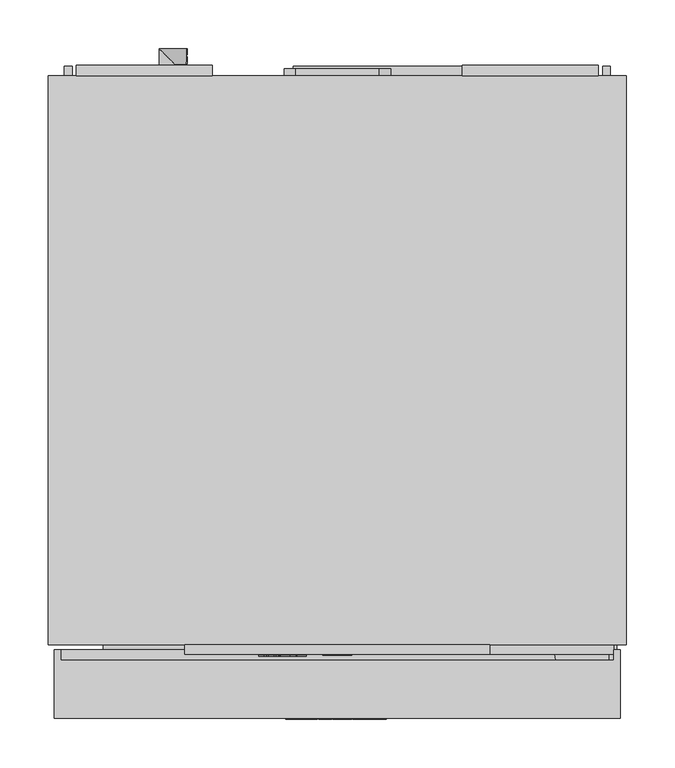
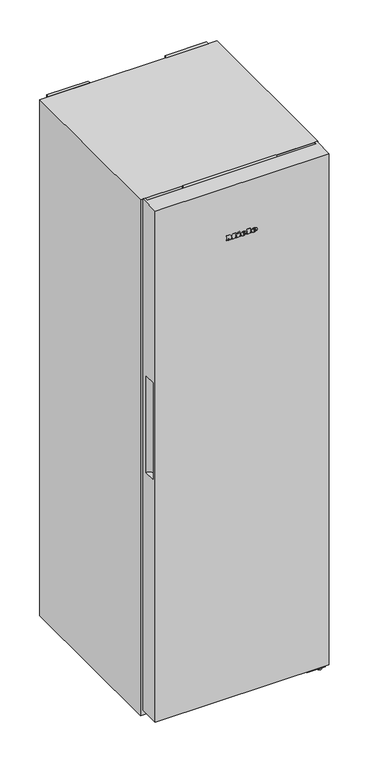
"""IFC4 building model written with IfcOpenShell, lengths in millimetres: proxy geometry, 11952980_EU1_FN4372E_WS : 37437254_EU1_11952980_FN4372E_WS."""

from ifc_helpers import new_model, si_unit, point, frame, frame_2d, origin, origin_with_axes, place, context, project, spatial, polyline, circle_curve, ellipse_curve, trimmed, segment, composite_curve, outline, extrude, faceted_brep, source, transform, mapped, element, save
from ifc_brep_helpers import plane_surface, cylinder_surface, revolved_surface, extruded_surface, advanced_brep


def specialty_equipment_137c0dbd(model_context):
    return source(origin(), model_context, "Body", "SolidModel", [
        extrude(outline(polyline([(15.0, -609.5), (-15.0, -609.5), (-15.0, -606.5), (15.0, -606.5), (15.0, -609.5)])), frame((0.0, 0.0, 1812.0), z_axis=(0.0, 0.0, 1.0), x_axis=(1.0, 0.0, 0.0)), (0.0, 0.0, 1.0), 28.0),
        extrude(outline(polyline([(1845.5, 105.0), (1845.5, -105.0), (1806.5, -105.0), (1806.5, 105.0), (1845.5, 105.0)]), holes=[polyline([(1840.0, -15.0), (1840.0, 15.0), (1812.0, 15.0), (1812.0, -15.0), (1840.0, -15.0)])]), frame((0.0, -608.5, 0.0), z_axis=(0.0, 1.0, 0.0), x_axis=(0.0, 0.0, 1.0)), (0.0, 0.0, 1.0), 2.0),
        faceted_brep([(157.5, -598.5, 1802.0), (157.5, -608.5, 1802.0), (-157.5, -608.5, 1802.0), (-157.5, -598.5, 1802.0), (157.5, -598.5, 1850.0), (-157.5, -598.5, 1850.0), (-157.5, -608.5, 1850.0), (157.5, -608.5, 1850.0), (-105.0, -608.5, 1845.5), (105.0, -608.5, 1845.5), (105.0, -608.5, 1806.5), (-105.0, -608.5, 1806.5), (105.0, -606.5, 1845.5), (-105.0, -606.5, 1845.5), (-105.0, -606.5, 1806.5), (105.0, -606.5, 1806.5)], [[[0, 1, 2, 3]], [[4, 5, 6, 7]], [[0, 3, 5, 4]], [[3, 2, 6, 5]], [[2, 1, 7, 6], [8, 9, 10, 11]], [[1, 0, 4, 7]], [[12, 13, 14, 15]], [[13, 12, 9, 8]], [[14, 13, 8, 11]], [[15, 14, 11, 10]], [[12, 15, 10, 9]]]),
        advanced_brep(
        [(39.0804776, -675.5, 1668.7956125), (39.0804776, -675.5, 1670.5126125), (50.4534776, -675.5, 1670.5126125), (30.6654776, -675.5, 1670.5126125), (35.3404776, -675.5, 1664.7666125), (50.1644776, -675.5, 1668.7956125), (45.0304776, -675.5, 1668.7956125), (40.9844776, -675.5, 1666.8916125), (39.0804776, -675.5, 1672.6886125), (39.0804776, -675.5, 1674.5416125), (41.9874776, -675.5, 1674.5416125), (41.9874776, -675.5, 1672.6886125), (39.0804776, -674.5, 1668.7956125), (40.9844776, -674.5, 1666.8916125), (45.0304776, -674.5, 1668.7956125), (50.1644776, -674.5, 1668.7956125), (35.3404776, -674.5, 1664.7666125), (30.6654776, -674.5, 1670.5126125), (50.4534776, -674.5, 1670.5126125), (39.0804776, -674.5, 1670.5126125), (39.0804776, -674.5, 1672.6886125), (41.9874776, -674.5, 1672.6886125), (41.9874776, -674.5, 1674.5416125), (39.0804776, -674.5, 1674.5416125)],
        [
            (0, 1),
            (1, 2),
            (2, 3, ellipse_curve(frame((40.5594776, -675.5, 1670.5126125), z_axis=(0.0, -1.0, 0.0), x_axis=(-1.0, 0.0, 0.0)), 9.894, 8.177)),
            (3, 4, circle_curve(frame((37.2445704, -675.5, 1671.0906125), z_axis=(0.0, -1.0, 0.0), x_axis=(0.0, 0.0, -1.0)), 6.6044337)),
            (4, 5, circle_curve(frame((40.361414, -675.5, 1675.5786125), z_axis=(0.0, -1.0, 0.0), x_axis=(0.0, 0.0, -1.0)), 11.9209541)),
            (5, 6),
            (6, 7, circle_curve(frame((41.8154776, -675.5, 1670.3766125), z_axis=(0.0, 1.0, 0.0), x_axis=(0.0, 0.0, -1.0)), 3.5827065)),
            (7, 0, circle_curve(frame((40.9844776, -675.5, 1668.7956125), z_axis=(0.0, 1.0, 0.0), x_axis=(0.0, 0.0, -1.0)), 1.904)),
            (8, 9),
            (9, 10, circle_curve(frame((40.5339776, -675.5, 1674.5416125), z_axis=(0.0, 1.0, 0.0), x_axis=(0.0, 0.0, -1.0)), 1.4535)),
            (10, 11),
            (11, 8),
            (12, 13, circle_curve(frame((40.9844776, -674.5, 1668.7956125), z_axis=(0.0, -1.0, 0.0), x_axis=(0.0, 0.0, -1.0)), 1.904)),
            (13, 14, circle_curve(frame((41.8154776, -674.5, 1670.3766125), z_axis=(0.0, -1.0, 0.0), x_axis=(0.0, 0.0, -1.0)), 3.5827065)),
            (14, 15),
            (15, 16, circle_curve(frame((40.361414, -674.5, 1675.5786125), z_axis=(0.0, 1.0, 0.0), x_axis=(0.0, 0.0, -1.0)), 11.9209541)),
            (16, 17, circle_curve(frame((37.2445704, -674.5, 1671.0906125), z_axis=(0.0, 1.0, 0.0), x_axis=(0.0, 0.0, -1.0)), 6.6044337)),
            (17, 18, ellipse_curve(frame((40.5594776, -674.5, 1670.5126125), z_axis=(0.0, 1.0, 0.0), x_axis=(-1.0, 0.0, 0.0)), 9.894, 8.177)),
            (18, 19),
            (19, 12),
            (20, 21),
            (21, 22),
            (22, 23, circle_curve(frame((40.5339776, -674.5, 1674.5416125), z_axis=(0.0, -1.0, 0.0), x_axis=(0.0, 0.0, -1.0)), 1.4535)),
            (23, 20),
            (0, 12),
            (19, 1),
            (18, 2),
            (5, 15),
            (14, 6),
            (17, 3),
            (13, 7),
            (16, 4),
            (8, 20),
            (23, 9),
            (22, 10),
            (21, 11),
        ],
        [
            plane_surface(frame((39.0804776, -675.5, 1670.5126125), z_axis=(0.0, -1.0, 0.0), x_axis=(0.0, 0.0, 1.0))),
            plane_surface(frame((39.0804776, -674.5, 1670.5126125), z_axis=(0.0, 1.0, 0.0), x_axis=(0.0, 0.0, -1.0))),
            plane_surface(frame((39.0804776, -675.5, 1668.7956125), z_axis=(1.0, 0.0, 0.0), x_axis=(0.0, 1.0, 0.0))),
            plane_surface(frame((39.0804776, -675.5, 1670.5126125), z_axis=(0.0, 0.0, -1.0), x_axis=(0.0, 1.0, 0.0))),
            plane_surface(frame((50.1644776, -675.5, 1668.7956125), z_axis=(0.0, 0.0, 1.0), x_axis=(0.0, 1.0, 0.0))),
            extruded_surface(trimmed(ellipse_curve(frame((40.5594776, -673.5, 1670.5126125), z_axis=(0.0, -1.0, 0.0), x_axis=(-1.0, 0.0, 0.0)), 9.894, 8.177), [point((50.4534776, -673.5, 1670.5126125))], [point((30.6654776, -673.5, 1670.5126125))], True, "CARTESIAN"), (0.0, -1.0, 0.0), 1.0),
            revolved_surface(polyline([(41.8154776, -674.5, 1666.7939059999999), (41.8154776, -675.5, 1666.7939059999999)]), (41.8154776, -674.5, 1670.3766125), (0.0, 1.0, 0.0)),
            revolved_surface(polyline([(40.9844776, -674.5, 1666.8916125), (40.9844776, -675.5, 1666.8916125)]), (40.9844776, -674.5, 1668.7956125), (0.0, 1.0, 0.0)),
            cylinder_surface(frame((37.2445704, -674.5, 1671.0906125), z_axis=(0.0, -1.0, 0.0), x_axis=(0.0, 0.0, -1.0)), 6.6044337),
            cylinder_surface(frame((40.361414, -674.5, 1675.5786125), z_axis=(0.0, -1.0, 0.0), x_axis=(0.0, 0.0, -1.0)), 11.9209541),
            plane_surface(frame((39.0804776, -675.5, 1672.6886125), z_axis=(1.0, 0.0, 0.0), x_axis=(0.0, 1.0, 0.0))),
            revolved_surface(polyline([(40.5339776, -674.5, 1673.0881124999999), (40.5339776, -675.5, 1673.0881124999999)]), (40.5339776, -674.5, 1674.5416125), (0.0, 1.0, 0.0)),
            plane_surface(frame((41.9874776, -675.5, 1674.5416125), z_axis=(-1.0, 0.0, 0.0), x_axis=(0.0, 1.0, 0.0))),
            plane_surface(frame((41.9874776, -675.5, 1672.6886125), z_axis=(0.0, 0.0, 1.0), x_axis=(0.0, 1.0, 0.0))),
        ],
        [
            (0, [[1, 2, 3, 4, 5, 6, 7, 8], [9, 10, 11, 12]]),
            (1, [[13, 14, 15, 16, 17, 18, 19, 20], [21, 22, 23, 24]]),
            (2, [[-1, 25, -20, 26]]),
            (3, [[-2, -26, -19, 27]]),
            (4, [[-6, 28, -15, 29]]),
            (5, [[-3, -27, -18, 30]]),
            (6, [[-7, -29, -14, 31]]),
            (7, [[-8, -31, -13, -25]]),
            (8, [[-4, -30, -17, 32]]),
            (9, [[-5, -32, -16, -28]]),
            (10, [[-9, 33, -24, 34]]),
            (11, [[-10, -34, -23, 35]]),
            (12, [[-11, -35, -22, 36]]),
            (13, [[-12, -36, -21, -33]]),
        ],
    ),
        advanced_brep(
        [(3.6014776, -675.5, 1668.7956125), (3.6014776, -675.5, 1670.5126125), (14.9744776, -675.5, 1670.5126125), (-4.8135224, -675.5, 1670.5126125), (-0.1385224, -675.5, 1664.7666125), (14.6854776, -675.5, 1668.7956125), (9.5514776, -675.5, 1668.7956125), (5.5054776, -675.5, 1666.8916125), (3.6014776, -675.5, 1672.6886125), (3.6014776, -675.5, 1674.5416125), (6.5084776, -675.5, 1674.5416125), (6.5084776, -675.5, 1672.6886125), (3.6014776, -674.5, 1668.7956125), (5.5054776, -674.5, 1666.8916125), (9.5514776, -674.5, 1668.7956125), (14.6854776, -674.5, 1668.7956125), (-0.1385224, -674.5, 1664.7666125), (-4.8135224, -674.5, 1670.5126125), (14.9744776, -674.5, 1670.5126125), (3.6014776, -674.5, 1670.5126125), (3.6014776, -674.5, 1672.6886125), (6.5084776, -674.5, 1672.6886125), (6.5084776, -674.5, 1674.5416125), (3.6014776, -674.5, 1674.5416125)],
        [
            (0, 1),
            (1, 2),
            (2, 3, ellipse_curve(frame((5.0804776, -675.5, 1670.5126125), z_axis=(0.0, -1.0, 0.0), x_axis=(-1.0, 0.0, 0.0)), 9.894, 8.177)),
            (3, 4, circle_curve(frame((1.7655704, -675.5, 1671.0906125), z_axis=(0.0, -1.0, 0.0), x_axis=(0.0, 0.0, -1.0)), 6.6044337)),
            (4, 5, circle_curve(frame((4.882414, -675.5, 1675.5786125), z_axis=(0.0, -1.0, 0.0), x_axis=(0.0, 0.0, -1.0)), 11.9209541)),
            (5, 6),
            (6, 7, circle_curve(frame((6.3364776, -675.5, 1670.3766125), z_axis=(0.0, 1.0, 0.0), x_axis=(0.0, 0.0, -1.0)), 3.5827065)),
            (7, 0, circle_curve(frame((5.5054776, -675.5, 1668.7956125), z_axis=(0.0, 1.0, 0.0), x_axis=(0.0, 0.0, -1.0)), 1.904)),
            (8, 9),
            (9, 10, circle_curve(frame((5.0549776, -675.5, 1674.5416125), z_axis=(0.0, 1.0, 0.0), x_axis=(0.0, 0.0, -1.0)), 1.4535)),
            (10, 11),
            (11, 8),
            (12, 13, circle_curve(frame((5.5054776, -674.5, 1668.7956125), z_axis=(0.0, -1.0, 0.0), x_axis=(0.0, 0.0, -1.0)), 1.904)),
            (13, 14, circle_curve(frame((6.3364776, -674.5, 1670.3766125), z_axis=(0.0, -1.0, 0.0), x_axis=(0.0, 0.0, -1.0)), 3.5827065)),
            (14, 15),
            (15, 16, circle_curve(frame((4.882414, -674.5, 1675.5786125), z_axis=(0.0, 1.0, 0.0), x_axis=(0.0, 0.0, -1.0)), 11.9209541)),
            (16, 17, circle_curve(frame((1.7655704, -674.5, 1671.0906125), z_axis=(0.0, 1.0, 0.0), x_axis=(0.0, 0.0, -1.0)), 6.6044337)),
            (17, 18, ellipse_curve(frame((5.0804776, -674.5, 1670.5126125), z_axis=(0.0, 1.0, 0.0), x_axis=(-1.0, 0.0, 0.0)), 9.894, 8.177)),
            (18, 19),
            (19, 12),
            (20, 21),
            (21, 22),
            (22, 23, circle_curve(frame((5.0549776, -674.5, 1674.5416125), z_axis=(0.0, -1.0, 0.0), x_axis=(0.0, 0.0, -1.0)), 1.4535)),
            (23, 20),
            (0, 12),
            (19, 1),
            (18, 2),
            (5, 15),
            (14, 6),
            (17, 3),
            (13, 7),
            (16, 4),
            (8, 20),
            (23, 9),
            (22, 10),
            (21, 11),
        ],
        [
            plane_surface(frame((3.6014776, -675.5, 1670.5126125), z_axis=(0.0, -1.0, 0.0), x_axis=(0.0, 0.0, 1.0))),
            plane_surface(frame((3.6014776, -674.5, 1670.5126125), z_axis=(0.0, 1.0, 0.0), x_axis=(0.0, 0.0, -1.0))),
            plane_surface(frame((3.6014776, -675.5, 1668.7956125), z_axis=(1.0, 0.0, 0.0), x_axis=(0.0, 1.0, 0.0))),
            plane_surface(frame((3.6014776, -675.5, 1670.5126125), z_axis=(0.0, 0.0, -1.0), x_axis=(0.0, 1.0, 0.0))),
            plane_surface(frame((14.6854776, -675.5, 1668.7956125), z_axis=(0.0, 0.0, 1.0), x_axis=(0.0, 1.0, 0.0))),
            extruded_surface(trimmed(ellipse_curve(frame((5.0804776, -673.5, 1670.5126125), z_axis=(0.0, -1.0, 0.0), x_axis=(-1.0, 0.0, 0.0)), 9.894, 8.177), [point((14.9744776, -673.5, 1670.5126125))], [point((-4.8135224, -673.5, 1670.5126125))], True, "CARTESIAN"), (0.0, -1.0, 0.0), 1.0),
            revolved_surface(polyline([(6.3364776, -674.5, 1666.7939059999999), (6.3364776, -675.5, 1666.7939059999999)]), (6.3364776, -674.5, 1670.3766125), (0.0, 1.0, 0.0)),
            revolved_surface(polyline([(5.5054776, -674.5, 1666.8916125), (5.5054776, -675.5, 1666.8916125)]), (5.5054776, -674.5, 1668.7956125), (0.0, 1.0, 0.0)),
            cylinder_surface(frame((1.7655704, -674.5, 1671.0906125), z_axis=(0.0, -1.0, 0.0), x_axis=(0.0, 0.0, -1.0)), 6.6044337),
            cylinder_surface(frame((4.882414, -674.5, 1675.5786125), z_axis=(0.0, -1.0, 0.0), x_axis=(0.0, 0.0, -1.0)), 11.9209541),
            plane_surface(frame((3.6014776, -675.5, 1672.6886125), z_axis=(1.0, 0.0, 0.0), x_axis=(0.0, 1.0, 0.0))),
            revolved_surface(polyline([(5.0549776, -674.5, 1673.0881124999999), (5.0549776, -675.5, 1673.0881124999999)]), (5.0549776, -674.5, 1674.5416125), (0.0, 1.0, 0.0)),
            plane_surface(frame((6.5084776, -675.5, 1674.5416125), z_axis=(-1.0, 0.0, 0.0), x_axis=(0.0, 1.0, 0.0))),
            plane_surface(frame((6.5084776, -675.5, 1672.6886125), z_axis=(0.0, 0.0, 1.0), x_axis=(0.0, 1.0, 0.0))),
        ],
        [
            (0, [[1, 2, 3, 4, 5, 6, 7, 8], [9, 10, 11, 12]]),
            (1, [[13, 14, 15, 16, 17, 18, 19, 20], [21, 22, 23, 24]]),
            (2, [[-1, 25, -20, 26]]),
            (3, [[-2, -26, -19, 27]]),
            (4, [[-6, 28, -15, 29]]),
            (5, [[-3, -27, -18, 30]]),
            (6, [[-7, -29, -14, 31]]),
            (7, [[-8, -31, -13, -25]]),
            (8, [[-4, -30, -17, 32]]),
            (9, [[-5, -32, -16, -28]]),
            (10, [[-9, 33, -24, 34]]),
            (11, [[-10, -34, -23, 35]]),
            (12, [[-11, -35, -22, 36]]),
            (13, [[-12, -36, -21, -33]]),
        ],
    ),
        extrude(outline(polyline([(1680.7636125, -14.9795224), (1678.0096125, -13.6875224), (1680.6956125, -7.9245224), (1683.4496125, -9.1995224), (1680.7636125, -14.9795224)])), frame((0.0, -675.5, 0.0), z_axis=(0.0, 1.0, 0.0), x_axis=(0.0, 0.0, 1.0)), (0.0, 0.0, 1.0), 1.0),
        extrude(outline(polyline([(1677.6356125, -19.1785224), (1674.5926125, -19.1785224), (1674.5926125, -17.1555224), (1667.6226125, -17.1555224), (1667.6226125, -19.1785224), (1664.7666125, -19.1785224), (1664.7666125, -5.7655224), (1667.6226125, -5.7655224), (1667.6226125, -7.7375224), (1677.6356125, -7.7375224), (1677.6356125, -19.1785224)])), frame((0.0, -675.5, 0.0), z_axis=(0.0, 1.0, 0.0), x_axis=(0.0, 0.0, 1.0)), (0.0, 0.0, 1.0), 1.0),
        extrude(outline(polyline([(1678.9956125, 15.9264776), (1678.9956125, 17.9664776), (1667.6226125, 17.9664776), (1667.6226125, 15.9264776), (1664.7666125, 15.9264776), (1664.7666125, 29.7134776), (1667.6226125, 29.7134776), (1667.6226125, 27.6224776), (1681.7666125, 27.6224776), (1681.7666125, 15.9264776), (1678.9956125, 15.9264776)])), frame((0.0, -675.5, 0.0), z_axis=(0.0, 1.0, 0.0), x_axis=(0.0, 0.0, 1.0)), (0.0, 0.0, 1.0), 1.0),
        extrude(outline(polyline([(1678.9956125, -53.0595224), (1678.9956125, -51.0025224), (1667.6226125, -51.0025224), (1667.6226125, -53.0595224), (1664.7666125, -53.0595224), (1664.7666125, -45.5795224), (1667.6226125, -45.5795224), (1667.6226125, -47.6195224), (1674.7967372, -47.6195224), (1664.7666125, -40.0205224), (1675.2068348, -32.3875224), (1667.6226125, -32.3875224), (1667.6226125, -34.4785224), (1664.7666125, -34.4785224), (1664.7666125, -20.9125224), (1667.6226125, -20.9125224), (1667.6226125, -23.0715224), (1678.9956125, -23.0715224), (1678.9956125, -20.9125224), (1681.7666125, -20.9125224), (1681.7666125, -31.2655224), (1675.3916125, -36.2295224), (1681.7666125, -41.2105224), (1681.7666125, -53.0595224), (1678.9956125, -53.0595224)])), frame((0.0, -675.5, 0.0), z_axis=(0.0, 1.0, 0.0), x_axis=(0.0, 0.0, 1.0)), (0.0, 0.0, 1.0), 1.0),
        advanced_brep(
        [(-37.64, -610.5, 1828.896), (-37.64, -610.5, 1829.704), (-32.288, -610.5, 1829.704), (-41.6, -610.5, 1829.704), (-39.4, -610.5, 1827.0), (-32.424, -610.5, 1828.896), (-34.84, -610.5, 1828.896), (-36.744, -610.5, 1828.0), (-37.64, -610.5, 1830.728), (-37.64, -610.5, 1831.6), (-36.272, -610.5, 1831.6), (-36.272, -610.5, 1830.728), (-37.64, -609.5, 1828.896), (-36.744, -609.5, 1828.0), (-34.84, -609.5, 1828.896), (-32.424, -609.5, 1828.896), (-39.4, -609.5, 1827.0), (-41.6, -609.5, 1829.704), (-32.288, -609.5, 1829.704), (-37.64, -609.5, 1829.704), (-37.64, -609.5, 1830.728), (-36.272, -609.5, 1830.728), (-36.272, -609.5, 1831.6), (-37.64, -609.5, 1831.6)],
        [
            (0, 1),
            (1, 2),
            (2, 3, ellipse_curve(frame((-36.944, -610.5, 1829.704), z_axis=(0.0, -1.0, 0.0), x_axis=(-1.0, 0.0, 0.0)), 4.656, 3.848)),
            (3, 4, circle_curve(frame((-38.5039564, -610.5, 1829.976), z_axis=(0.0, -1.0, 0.0), x_axis=(0.0, 0.0, -1.0)), 3.1079688)),
            (4, 5, circle_curve(frame((-37.0372064, -610.5, 1832.088), z_axis=(0.0, -1.0, 0.0), x_axis=(0.0, 0.0, -1.0)), 5.6098607)),
            (5, 6),
            (6, 7, circle_curve(frame((-36.3529412, -610.5, 1829.64), z_axis=(0.0, 1.0, 0.0), x_axis=(0.0, 0.0, -1.0)), 1.6859795)),
            (7, 0, circle_curve(frame((-36.744, -610.5, 1828.896), z_axis=(0.0, 1.0, 0.0), x_axis=(0.0, 0.0, -1.0)), 0.896)),
            (8, 9),
            (9, 10, circle_curve(frame((-36.956, -610.5, 1831.6), z_axis=(0.0, 1.0, 0.0), x_axis=(0.0, 0.0, -1.0)), 0.684)),
            (10, 11),
            (11, 8),
            (12, 13, circle_curve(frame((-36.744, -609.5, 1828.896), z_axis=(0.0, -1.0, 0.0), x_axis=(0.0, 0.0, -1.0)), 0.896)),
            (13, 14, circle_curve(frame((-36.3529412, -609.5, 1829.64), z_axis=(0.0, -1.0, 0.0), x_axis=(0.0, 0.0, -1.0)), 1.6859795)),
            (14, 15),
            (15, 16, circle_curve(frame((-37.0372064, -609.5, 1832.088), z_axis=(0.0, 1.0, 0.0), x_axis=(0.0, 0.0, -1.0)), 5.6098607)),
            (16, 17, circle_curve(frame((-38.5039564, -609.5, 1829.976), z_axis=(0.0, 1.0, 0.0), x_axis=(0.0, 0.0, -1.0)), 3.1079688)),
            (17, 18, ellipse_curve(frame((-36.944, -609.5, 1829.704), z_axis=(0.0, 1.0, 0.0), x_axis=(-1.0, 0.0, 0.0)), 4.656, 3.848)),
            (18, 19),
            (19, 12),
            (20, 21),
            (21, 22),
            (22, 23, circle_curve(frame((-36.956, -609.5, 1831.6), z_axis=(0.0, -1.0, 0.0), x_axis=(0.0, 0.0, -1.0)), 0.684)),
            (23, 20),
            (0, 12),
            (19, 1),
            (18, 2),
            (5, 15),
            (14, 6),
            (17, 3),
            (13, 7),
            (16, 4),
            (8, 20),
            (23, 9),
            (22, 10),
            (21, 11),
        ],
        [
            plane_surface(frame((-37.64, -610.5, 1829.704), z_axis=(0.0, -1.0, 0.0), x_axis=(0.0, 0.0, 1.0))),
            plane_surface(frame((-37.64, -609.5, 1829.704), z_axis=(0.0, 1.0, 0.0), x_axis=(0.0, 0.0, -1.0))),
            plane_surface(frame((-37.64, -610.5, 1828.896), z_axis=(1.0, 0.0, 0.0), x_axis=(0.0, 1.0, 0.0))),
            plane_surface(frame((-37.64, -610.5, 1829.704), z_axis=(0.0, 0.0, -1.0), x_axis=(0.0, 1.0, 0.0))),
            plane_surface(frame((-32.424, -610.5, 1828.896), z_axis=(0.0, 0.0, 1.0), x_axis=(0.0, 1.0, 0.0))),
            extruded_surface(trimmed(ellipse_curve(frame((-36.944, -608.5, 1829.704), z_axis=(0.0, -1.0, 0.0), x_axis=(-1.0, 0.0, 0.0)), 4.656, 3.848), [point((-32.288, -608.5, 1829.704))], [point((-41.6, -608.5, 1829.704))], True, "CARTESIAN"), (0.0, -1.0, 0.0), 1.0),
            revolved_surface(polyline([(-36.3529412, -609.5, 1827.9540205), (-36.3529412, -610.5, 1827.9540205)]), (-36.3529412, -609.5, 1829.64), (0.0, 1.0, 0.0)),
            revolved_surface(polyline([(-36.744, -609.5, 1828.0), (-36.744, -610.5, 1828.0)]), (-36.744, -609.5, 1828.896), (0.0, 1.0, 0.0)),
            cylinder_surface(frame((-38.5039564, -609.5, 1829.976), z_axis=(0.0, -1.0, 0.0), x_axis=(0.0, 0.0, -1.0)), 3.1079688),
            cylinder_surface(frame((-37.0372064, -609.5, 1832.088), z_axis=(0.0, -1.0, 0.0), x_axis=(0.0, 0.0, -1.0)), 5.6098607),
            plane_surface(frame((-37.64, -610.5, 1830.728), z_axis=(1.0, 0.0, 0.0), x_axis=(0.0, 1.0, 0.0))),
            revolved_surface(polyline([(-36.956, -609.5, 1830.916), (-36.956, -610.5, 1830.916)]), (-36.956, -609.5, 1831.6), (0.0, 1.0, 0.0)),
            plane_surface(frame((-36.272, -610.5, 1831.6), z_axis=(-1.0, 0.0, 0.0), x_axis=(0.0, 1.0, 0.0))),
            plane_surface(frame((-36.272, -610.5, 1830.728), z_axis=(0.0, 0.0, 1.0), x_axis=(0.0, 1.0, 0.0))),
        ],
        [
            (0, [[1, 2, 3, 4, 5, 6, 7, 8], [9, 10, 11, 12]]),
            (1, [[13, 14, 15, 16, 17, 18, 19, 20], [21, 22, 23, 24]]),
            (2, [[-1, 25, -20, 26]]),
            (3, [[-2, -26, -19, 27]]),
            (4, [[-6, 28, -15, 29]]),
            (5, [[-3, -27, -18, 30]]),
            (6, [[-7, -29, -14, 31]]),
            (7, [[-8, -31, -13, -25]]),
            (8, [[-4, -30, -17, 32]]),
            (9, [[-5, -32, -16, -28]]),
            (10, [[-9, 33, -24, 34]]),
            (11, [[-10, -34, -23, 35]]),
            (12, [[-11, -35, -22, 36]]),
            (13, [[-12, -36, -21, -33]]),
        ],
    ),
        advanced_brep(
        [(-54.336, -610.5, 1828.896), (-54.336, -610.5, 1829.704), (-48.984, -610.5, 1829.704), (-58.296, -610.5, 1829.704), (-56.096, -610.5, 1827.0), (-49.12, -610.5, 1828.896), (-51.536, -610.5, 1828.896), (-53.44, -610.5, 1828.0), (-54.336, -610.5, 1830.728), (-54.336, -610.5, 1831.6), (-52.968, -610.5, 1831.6), (-52.968, -610.5, 1830.728), (-54.336, -609.5, 1828.896), (-53.44, -609.5, 1828.0), (-51.536, -609.5, 1828.896), (-49.12, -609.5, 1828.896), (-56.096, -609.5, 1827.0), (-58.296, -609.5, 1829.704), (-48.984, -609.5, 1829.704), (-54.336, -609.5, 1829.704), (-54.336, -609.5, 1830.728), (-52.968, -609.5, 1830.728), (-52.968, -609.5, 1831.6), (-54.336, -609.5, 1831.6)],
        [
            (0, 1),
            (1, 2),
            (2, 3, ellipse_curve(frame((-53.64, -610.5, 1829.704), z_axis=(0.0, -1.0, 0.0), x_axis=(-1.0, 0.0, 0.0)), 4.656, 3.848)),
            (3, 4, circle_curve(frame((-55.1999564, -610.5, 1829.976), z_axis=(0.0, -1.0, 0.0), x_axis=(0.0, 0.0, -1.0)), 3.1079688)),
            (4, 5, circle_curve(frame((-53.7332064, -610.5, 1832.088), z_axis=(0.0, -1.0, 0.0), x_axis=(0.0, 0.0, -1.0)), 5.6098607)),
            (5, 6),
            (6, 7, circle_curve(frame((-53.0489412, -610.5, 1829.64), z_axis=(0.0, 1.0, 0.0), x_axis=(0.0, 0.0, -1.0)), 1.6859795)),
            (7, 0, circle_curve(frame((-53.44, -610.5, 1828.896), z_axis=(0.0, 1.0, 0.0), x_axis=(0.0, 0.0, -1.0)), 0.896)),
            (8, 9),
            (9, 10, circle_curve(frame((-53.652, -610.5, 1831.6), z_axis=(0.0, 1.0, 0.0), x_axis=(0.0, 0.0, -1.0)), 0.684)),
            (10, 11),
            (11, 8),
            (12, 13, circle_curve(frame((-53.44, -609.5, 1828.896), z_axis=(0.0, -1.0, 0.0), x_axis=(0.0, 0.0, -1.0)), 0.896)),
            (13, 14, circle_curve(frame((-53.0489412, -609.5, 1829.64), z_axis=(0.0, -1.0, 0.0), x_axis=(0.0, 0.0, -1.0)), 1.6859795)),
            (14, 15),
            (15, 16, circle_curve(frame((-53.7332064, -609.5, 1832.088), z_axis=(0.0, 1.0, 0.0), x_axis=(0.0, 0.0, -1.0)), 5.6098607)),
            (16, 17, circle_curve(frame((-55.1999564, -609.5, 1829.976), z_axis=(0.0, 1.0, 0.0), x_axis=(0.0, 0.0, -1.0)), 3.1079688)),
            (17, 18, ellipse_curve(frame((-53.64, -609.5, 1829.704), z_axis=(0.0, 1.0, 0.0), x_axis=(-1.0, 0.0, 0.0)), 4.656, 3.848)),
            (18, 19),
            (19, 12),
            (20, 21),
            (21, 22),
            (22, 23, circle_curve(frame((-53.652, -609.5, 1831.6), z_axis=(0.0, -1.0, 0.0), x_axis=(0.0, 0.0, -1.0)), 0.684)),
            (23, 20),
            (0, 12),
            (19, 1),
            (18, 2),
            (5, 15),
            (14, 6),
            (17, 3),
            (13, 7),
            (16, 4),
            (8, 20),
            (23, 9),
            (22, 10),
            (21, 11),
        ],
        [
            plane_surface(frame((-54.336, -610.5, 1829.704), z_axis=(0.0, -1.0, 0.0), x_axis=(0.0, 0.0, 1.0))),
            plane_surface(frame((-54.336, -609.5, 1829.704), z_axis=(0.0, 1.0, 0.0), x_axis=(0.0, 0.0, -1.0))),
            plane_surface(frame((-54.336, -610.5, 1828.896), z_axis=(1.0, 0.0, 0.0), x_axis=(0.0, 1.0, 0.0))),
            plane_surface(frame((-54.336, -610.5, 1829.704), z_axis=(0.0, 0.0, -1.0), x_axis=(0.0, 1.0, 0.0))),
            plane_surface(frame((-49.12, -610.5, 1828.896), z_axis=(0.0, 0.0, 1.0), x_axis=(0.0, 1.0, 0.0))),
            extruded_surface(trimmed(ellipse_curve(frame((-53.64, -608.5, 1829.704), z_axis=(0.0, -1.0, 0.0), x_axis=(-1.0, 0.0, 0.0)), 4.656, 3.848), [point((-48.984, -608.5, 1829.704))], [point((-58.296, -608.5, 1829.704))], True, "CARTESIAN"), (0.0, -1.0, 0.0), 1.0),
            revolved_surface(polyline([(-53.0489412, -609.5, 1827.9540205), (-53.0489412, -610.5, 1827.9540205)]), (-53.0489412, -609.5, 1829.64), (0.0, 1.0, 0.0)),
            revolved_surface(polyline([(-53.44, -609.5, 1828.0), (-53.44, -610.5, 1828.0)]), (-53.44, -609.5, 1828.896), (0.0, 1.0, 0.0)),
            cylinder_surface(frame((-55.1999564, -609.5, 1829.976), z_axis=(0.0, -1.0, 0.0), x_axis=(0.0, 0.0, -1.0)), 3.1079688),
            cylinder_surface(frame((-53.7332064, -609.5, 1832.088), z_axis=(0.0, -1.0, 0.0), x_axis=(0.0, 0.0, -1.0)), 5.6098607),
            plane_surface(frame((-54.336, -610.5, 1830.728), z_axis=(1.0, 0.0, 0.0), x_axis=(0.0, 1.0, 0.0))),
            revolved_surface(polyline([(-53.652, -609.5, 1830.916), (-53.652, -610.5, 1830.916)]), (-53.652, -609.5, 1831.6), (0.0, 1.0, 0.0)),
            plane_surface(frame((-52.968, -610.5, 1831.6), z_axis=(-1.0, 0.0, 0.0), x_axis=(0.0, 1.0, 0.0))),
            plane_surface(frame((-52.968, -610.5, 1830.728), z_axis=(0.0, 0.0, 1.0), x_axis=(0.0, 1.0, 0.0))),
        ],
        [
            (0, [[1, 2, 3, 4, 5, 6, 7, 8], [9, 10, 11, 12]]),
            (1, [[13, 14, 15, 16, 17, 18, 19, 20], [21, 22, 23, 24]]),
            (2, [[-1, 25, -20, 26]]),
            (3, [[-2, -26, -19, 27]]),
            (4, [[-6, 28, -15, 29]]),
            (5, [[-3, -27, -18, 30]]),
            (6, [[-7, -29, -14, 31]]),
            (7, [[-8, -31, -13, -25]]),
            (8, [[-4, -30, -17, 32]]),
            (9, [[-5, -32, -16, -28]]),
            (10, [[-9, 33, -24, 34]]),
            (11, [[-10, -34, -23, 35]]),
            (12, [[-11, -35, -22, 36]]),
            (13, [[-12, -36, -21, -33]]),
        ],
    ),
        extrude(outline(polyline([(1834.528, -63.08), (1833.232, -62.472), (1834.496, -59.76), (1835.792, -60.36), (1834.528, -63.08)])), frame((0.0, -610.5, 0.0), z_axis=(0.0, 1.0, 0.0), x_axis=(0.0, 0.0, 1.0)), (0.0, 0.0, 1.0), 1.0),
        extrude(outline(polyline([(1833.056, -65.056), (1831.624, -65.056), (1831.624, -64.104), (1828.344, -64.104), (1828.344, -65.056), (1827.0, -65.056), (1827.0, -58.744), (1828.344, -58.744), (1828.344, -59.672), (1833.056, -59.672), (1833.056, -65.056)])), frame((0.0, -610.5, 0.0), z_axis=(0.0, 1.0, 0.0), x_axis=(0.0, 0.0, 1.0)), (0.0, 0.0, 1.0), 1.0),
        extrude(outline(polyline([(1833.696, -48.536), (1833.696, -47.576), (1828.344, -47.576), (1828.344, -48.536), (1827.0, -48.536), (1827.0, -42.048), (1828.344, -42.048), (1828.344, -43.032), (1835.0, -43.032), (1835.0, -48.536), (1833.696, -48.536)])), frame((0.0, -610.5, 0.0), z_axis=(0.0, 1.0, 0.0), x_axis=(0.0, 0.0, 1.0)), (0.0, 0.0, 1.0), 1.0),
        extrude(outline(polyline([(1833.696, -81.0), (1833.696, -80.032), (1828.344, -80.032), (1828.344, -81.0), (1827.0, -81.0), (1827.0, -77.48), (1828.344, -77.48), (1828.344, -78.44), (1831.7471247, -78.44), (1827.0, -74.864), (1831.8152223, -71.272), (1828.344, -71.272), (1828.344, -72.256), (1827.0, -72.256), (1827.0, -65.872), (1828.344, -65.872), (1828.344, -66.888), (1833.696, -66.888), (1833.696, -65.872), (1835.0, -65.872), (1835.0, -70.744), (1832.0, -73.08), (1835.0, -75.424), (1835.0, -81.0), (1833.696, -81.0)])), frame((0.0, -610.5, 0.0), z_axis=(0.0, 1.0, 0.0), x_axis=(0.0, 0.0, 1.0)), (0.0, 0.0, 1.0), 1.0),
        extrude(outline(polyline([(-42.8527823, 0.0), (-48.1304417, 3.2708192), (-29.8908031, 3.2708192), (-34.9274229, 0.0), (-42.8527823, 0.0)])), frame((238.5469678, 0.0, 0.0), z_axis=(1.0, 0.0, 0.0), x_axis=(0.0, 1.0, 0.0)), (0.0, 0.0, 1.0), 15.1632647),
        extrude(outline(polyline([(-42.8527823, 0.0), (-48.1304417, 3.2708192), (-29.8908031, 3.2708192), (-34.9274229, 0.0), (-42.8527823, 0.0)])), frame((-253.7102325, 0.0, 0.0), z_axis=(1.0, 0.0, 0.0), x_axis=(0.0, 1.0, 0.0)), (0.0, 0.0, 1.0), 15.1632647),
        extrude(outline(polyline([(2.1227397, 65.0), (2.1227397, 75.045631), (9.343037, 75.045631), (9.343037, 73.7899271), (3.3784436, 73.7899271), (3.3784436, 70.8076304), (9.029111, 70.8076304), (9.029111, 69.5519266), (3.3784436, 69.5519266), (3.3784436, 66.2557039), (9.5, 66.2557039), (9.5, 65.0), (2.1227397, 65.0)])), frame((-156.0615355, 0.0, 0.0), z_axis=(1.0, 0.0, 0.0), x_axis=(0.0, 1.0, 0.0)), (0.0, 0.0, 1.0), 1.0),
        extrude(outline(polyline([(11.3835558, 65.0), (11.3835558, 75.045631), (12.6392597, 75.045631), (12.6392597, 66.2557039), (17.6620752, 66.2557039), (17.6620752, 65.0), (11.3835558, 65.0)])), frame((-156.0615355, 0.0, 0.0), z_axis=(1.0, 0.0, 0.0), x_axis=(0.0, 1.0, 0.0)), (0.0, 0.0, 1.0), 1.0),
        advanced_brep(
        [(-168.0615355, -10.5, 70.0), (-184.0615355, -10.5, 70.0), (-168.0615355, 1.5, 70.0), (-184.0615355, 17.5, 70.0), (-156.0615355, 1.5, 70.0), (-156.0615355, 17.5, 70.0)],
        [
            (0, 1, circle_curve(frame((-176.0615355, -10.5, 70.0), z_axis=(0.0, -1.0, 0.0), x_axis=(-1.0, 0.0, 0.0)), 8.0)),
            (1, 0, circle_curve(frame((-176.0615355, -10.5, 70.0), z_axis=(0.0, -1.0, 0.0), x_axis=(-1.0, 0.0, 0.0)), 8.0)),
            (0, 2),
            (2, 3, ellipse_curve(frame((-176.0615355, 9.5, 70.0), z_axis=(-0.7071067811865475, -0.7071067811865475, 0.0), x_axis=(0.7071067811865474, -0.7071067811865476, 0.0)), 11.3137085, 8.0)),
            (3, 1),
            (3, 2, ellipse_curve(frame((-176.0615355, 9.5, 70.0), z_axis=(-0.7071067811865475, -0.7071067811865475, 0.0), x_axis=(0.7071067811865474, -0.7071067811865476, 0.0)), 11.3137085, 8.0)),
            (4, 5, circle_curve(frame((-156.0615355, 9.5, 70.0), z_axis=(1.0, 0.0, 0.0), x_axis=(0.0, 1.0, 0.0)), 8.0)),
            (5, 4, circle_curve(frame((-156.0615355, 9.5, 70.0), z_axis=(1.0, 0.0, 0.0), x_axis=(0.0, 1.0, 0.0)), 8.0)),
            (2, 4),
            (5, 3),
        ],
        [
            plane_surface(frame((-176.0615355, -10.5, 0.0), z_axis=(0.0, -1.0, 0.0), x_axis=(0.0, 0.0, 1.0))),
            cylinder_surface(frame((-176.0615355, -10.5, 70.0), z_axis=(0.0, -1.0, 0.0), x_axis=(-1.0, 0.0, 0.0)), 8.0),
            plane_surface(frame((-156.0615355, 9.5, 0.0), z_axis=(1.0, 0.0, 0.0), x_axis=(0.0, 0.0, 1.0))),
            cylinder_surface(frame((-176.0615355, 9.5, 70.0), z_axis=(-1.0, 0.0, 0.0), x_axis=(0.0, 1.0, 0.0)), 8.0),
        ],
        [
            (0, [[1, 2]]),
            (1, [[-1, 3, 4, 5]]),
            (1, [[-2, -5, 6, -3]]),
            (2, [[7, 8]]),
            (3, [[-4, 9, -8, 10]]),
            (3, [[-6, -10, -7, -9]]),
        ],
    ),
        extrude(outline(polyline([(-118.9841834, 15.0), (-62.9841834, 15.0), (-75.5706779, 0.0), (-106.3976889, 0.0), (-118.9841834, 15.0)])), frame((-288.5, 0.0, 0.0), z_axis=(1.0, 0.0, 0.0), x_axis=(0.0, 1.0, 0.0)), (0.0, 0.0, 1.0), 16.0),
        extrude(outline(polyline([(-118.9841834, 15.0), (-62.9841834, 15.0), (-75.5706779, 0.0), (-106.3976889, 0.0), (-118.9841834, 15.0)])), frame((272.5, 0.0, 0.0), z_axis=(1.0, 0.0, 0.0), x_axis=(0.0, 1.0, 0.0)), (0.0, 0.0, 1.0), 16.0),
        extrude(outline(polyline([(281.8051758, -10.5), (274.2947998, -10.5), (274.2947998, -0.5), (281.8051758, -0.5), (281.8051758, -10.5)])), frame((0.0, 0.0, 239.4947815), z_axis=(0.0, 0.0, 1.0), x_axis=(1.0, 0.0, 0.0)), (0.0, 0.0, 1.0), 18.4103699),
        extrude(outline(polyline([(-274.0827332, -10.5), (-282.1051331, -10.5), (-282.1051331, -0.5), (-274.0827332, -0.5), (-274.0827332, -10.5)])), frame((0.0, 0.0, 239.4947815), z_axis=(0.0, 0.0, 1.0), x_axis=(1.0, 0.0, 0.0)), (0.0, 0.0, 1.0), 18.3224792),
        extrude(outline(polyline([(190.0, 177.5), (133.0, 177.5), (133.0, -45.5), (64.0, -45.5), (64.0, 258.5), (190.0, 258.5), (190.0, 177.5)])), frame((0.0, -10.5, 0.0), z_axis=(0.0, 1.0, 0.0), x_axis=(0.0, 0.0, 1.0)), (0.0, 0.0, 1.0), 10.0),
        extrude(outline(polyline([(269.5372046, -10.5), (129.0, -10.5), (129.0, 0.0), (269.5372046, 0.0), (269.5372046, -10.5)])), frame((0.0, 0.0, 1826.0), z_axis=(0.0, 0.0, 1.0), x_axis=(1.0, 0.0, 0.0)), (0.0, 0.0, 1.0), 24.0),
        extrude(outline(polyline([(-129.0, -10.5), (-269.5372046, -10.5), (-269.5372046, 0.0), (-129.0, 0.0), (-129.0, -10.5)])), frame((0.0, 0.0, 1826.0), z_axis=(0.0, 0.0, 1.0), x_axis=(1.0, 0.0, 0.0)), (0.0, 0.0, 1.0), 24.0),
        extrude(outline(polyline([(64.0, -159.5), (-64.0, -159.5), (-64.0, -71.5), (64.0, -71.5), (64.0, -159.5)])), frame((0.0, 0.0, 1636.0), z_axis=(0.0, 0.0, 1.0), x_axis=(1.0, 0.0, 0.0)), (0.0, 0.0, 1.0), 177.6535004),
        extrude(outline(polyline([(55.0, -521.5), (55.0, -575.5), (-55.0, -575.5), (-55.0, -521.5), (55.0, -521.5)])), frame((0.0, 0.0, 1759.0), z_axis=(0.0, 0.0, 1.0), x_axis=(1.0, 0.0, 0.0)), (0.0, 0.0, 1.0), 1.0),
        extrude(outline(composite_curve([segment(trimmed(circle_curve(frame_2d((-248.75, -584.5)), 10.0), [point((-258.75, -584.5))], [point((-238.75, -584.5))], False, "CARTESIAN"), True, "CONTINUOUS"), segment(trimmed(circle_curve(frame_2d((-248.75, -584.5)), 10.0), [point((-238.75, -584.5))], [point((-258.75, -584.5))], False, "CARTESIAN"), True, "CONTINUOUS")], self_intersect=False)), origin_with_axes(), (0.0, 0.0, 1.0), 15.0),
        extrude(outline(composite_curve([segment(trimmed(circle_curve(frame_2d((248.75, -584.4761218)), 10.0), [point((238.75, -584.4761218))], [point((258.75, -584.4761218))], False, "CARTESIAN"), True, "CONTINUOUS"), segment(trimmed(circle_curve(frame_2d((248.75, -584.4761218)), 10.0), [point((258.75, -584.4761218))], [point((238.75, -584.4761218))], False, "CARTESIAN"), True, "CONTINUOUS")], self_intersect=False)), origin_with_axes(), (0.0, 0.0, 1.0), 15.0),
        extrude(outline(polyline([(240.0, -290.5), (-240.0, -290.5), (-240.0, -71.5), (240.0, -71.5), (240.0, -290.5)])), frame((0.0, 0.0, 129.0), z_axis=(0.0, 0.0, 1.0), x_axis=(1.0, 0.0, 0.0)), (0.0, 0.0, 1.0), 190.0),
        extrude(outline(composite_curve([segment(trimmed(circle_curve(frame_2d((1162.0, -43.0)), 12.0), [point((1174.0, -43.0))], [point((1162.0, -55.0))], False, "CARTESIAN"), True, "CONTINUOUS"), segment(polyline([(1162.0, -55.0), (1138.0, -55.0)]), True, "CONTINUOUS"), segment(trimmed(circle_curve(frame_2d((1138.0, -43.0)), 12.0), [point((1138.0, -55.0))], [point((1126.0, -43.0))], False, "CARTESIAN"), True, "CONTINUOUS"), segment(polyline([(1126.0, -43.0), (1126.0, 43.0)]), True, "CONTINUOUS"), segment(trimmed(circle_curve(frame_2d((1138.0, 43.0)), 12.0), [point((1126.0, 43.0))], [point((1138.0, 55.0))], False, "CARTESIAN"), True, "CONTINUOUS"), segment(polyline([(1138.0, 55.0), (1162.0, 55.0)]), True, "CONTINUOUS"), segment(trimmed(circle_curve(frame_2d((1162.0, 43.0)), 12.0), [point((1162.0, 55.0))], [point((1174.0, 43.0))], False, "CARTESIAN"), True, "CONTINUOUS"), segment(polyline([(1174.0, 43.0), (1174.0, -43.0)]), True, "CONTINUOUS")], self_intersect=False)), frame((0.0, -10.5, 0.0), z_axis=(0.0, 1.0, 0.0), x_axis=(0.0, 0.0, 1.0)), (0.0, 0.0, 1.0), 7.0),
        extrude(outline(polyline([(272.5, -28.6436023), (272.5, -529.6387407), (-272.5, -529.6387407), (-272.5, -28.6436023), (272.5, -28.6436023)])), frame((0.0, 0.0, 3.2708192), z_axis=(0.0, 0.0, 1.0), x_axis=(1.0, 0.0, 0.0)), (0.0, 0.0, 1.0), 11.7291808),
        faceted_brep([(298.5, -10.5, 1850.0), (-298.5, -10.5, 1850.0), (-298.5, -598.5, 1850.0), (298.5, -598.5, 1850.0), (298.5, -10.5, 15.0), (298.5, -598.5, 15.0), (-298.5, -598.5, 15.0), (-298.5, -10.5, 15.0), (-240.0, -598.5, 1760.0), (240.0, -598.5, 1760.0), (240.0, -598.5, 129.0), (-240.0, -598.5, 129.0), (-240.0, -468.5, 1760.0), (240.0, -468.5, 1760.0), (240.0, -71.5, 129.0), (-240.0, -71.5, 129.0), (240.0, -71.5, 1813.6535004), (-240.0, -71.5, 1813.6535004), (-240.0, -468.5, 1813.6535004), (240.0, -468.5, 1813.6535004)], [[[0, 1, 2, 3]], [[4, 5, 6, 7]], [[1, 0, 4, 7]], [[2, 1, 7, 6]], [[3, 2, 6, 5], [8, 9, 10, 11]], [[0, 3, 5, 4]], [[9, 8, 12, 13]], [[14, 15, 11, 10]], [[15, 14, 16, 17]], [[15, 17, 18, 12, 8, 11]], [[16, 14, 10, 9, 13, 19]], [[19, 18, 17, 16]], [[18, 19, 13, 12]]]),
        extrude(outline(composite_curve([segment(trimmed(circle_curve(frame_2d((276.9539666, -644.7854989)), 7.0), [point((269.9539666, -644.7854989))], [point((283.9539666, -644.7854989))], False, "CARTESIAN"), True, "CONTINUOUS"), segment(trimmed(circle_curve(frame_2d((276.9539666, -644.7854989)), 7.0), [point((283.9539666, -644.7854989))], [point((269.9539666, -644.7854989))], False, "CARTESIAN"), True, "CONTINUOUS")], self_intersect=False)), frame((0.0, 0.0, 10.0), z_axis=(0.0, 0.0, 1.0), x_axis=(1.0, 0.0, 0.0)), (0.0, 0.0, 1.0), 11.0),
        extrude(outline(polyline([(291.8779467, -660.5), (227.8680756, -660.5), (227.8680756, -603.5), (291.8779467, -603.5), (291.8779467, -660.5)])), frame((0.0, 0.0, 31.5014777), z_axis=(0.0, 0.0, 1.0), x_axis=(1.0, 0.0, 0.0)), (0.0, 0.0, 1.0), 4.4985223),
        extrude(outline(composite_curve([segment(trimmed(circle_curve(frame_2d((274.5, -642.5)), 10.0), [point((264.5, -642.5))], [point((284.5, -642.5))], False, "CARTESIAN"), True, "CONTINUOUS"), segment(trimmed(circle_curve(frame_2d((274.5, -642.5)), 10.0), [point((284.5, -642.5))], [point((264.5, -642.5))], False, "CARTESIAN"), True, "CONTINUOUS")], self_intersect=False)), frame((0.0, 0.0, 27.0014777), z_axis=(0.0, 0.0, 1.0), x_axis=(1.0, 0.0, 0.0)), (0.0, 0.0, 1.0), 4.5),
        extrude(outline(polyline([(242.0, -603.5), (-242.0, -603.5), (-242.0, -598.5), (242.0, -598.5), (242.0, -603.5)])), frame((0.0, 0.0, 128.0014777), z_axis=(0.0, 0.0, 1.0), x_axis=(1.0, 0.0, 0.0)), (0.0, 0.0, 1.0), 1639.0),
        extrude(outline(polyline([(233.3907627, -657.6644264), (224.7217479, -608.5), (280.684623, -608.5), (282.5, -657.6644264), (233.3907627, -657.6644264)])), frame((0.0, 0.0, 1817.6745089), z_axis=(0.0, 0.0, 1.0), x_axis=(1.0, 0.0, 0.0)), (0.0, 0.0, 1.0), 23.7898602),
        extrude(outline(polyline([(285.5, -608.5), (157.5, -608.5), (157.5, -598.5), (285.5, -598.5), (285.5, -608.5)])), frame((0.0, 0.0, 1800.5014777), z_axis=(0.0, 0.0, 1.0), x_axis=(1.0, 0.0, 0.0)), (0.0, 0.0, 1.0), 48.0),
        extrude(outline(polyline([(-598.5, 21.0), (-660.5, 21.0), (-660.5, 27.0014777), (-603.5, 27.0014777), (-603.5, 69.0014777), (-598.5, 69.0014777), (-598.5, 21.0)])), frame((226.5, 0.0, 0.0), z_axis=(1.0, 0.0, 0.0), x_axis=(0.0, 1.0, 0.0)), (0.0, 0.0, 1.0), 62.0),
        advanced_brep(
        [(292.5, -674.5, 1854.0), (-292.5, -674.5, 1854.0), (-292.5, -674.5, 36.0), (292.5, -674.5, 36.0), (292.5, -603.5, 1854.0), (292.5, -603.5, 36.0), (222.5, -603.5, 36.0), (222.5, -603.5, 66.0), (-222.5, -603.5, 66.0), (-222.5, -603.5, 36.0), (-292.5, -603.5, 36.0), (-292.5, -603.5, 1854.0), (-285.5, -603.5, 1854.0), (-285.5, -603.5, 1797.0), (285.5, -603.5, 1797.0), (285.5, -603.5, 1854.0), (285.5, -614.5, 1854.0), (-285.5, -614.5, 1854.0), (-292.5, -660.2074562, 891.0), (-292.5, -620.2074562, 891.0), (-292.5, -620.2074562, 1234.0), (-292.5, -660.2074562, 1234.0), (-222.5, -645.4397305, 36.0), (222.5, -645.4397305, 36.0), (222.5, -617.5, 66.0), (-222.5, -617.5, 66.0), (285.5, -614.5, 1797.0), (-285.5, -614.5, 1797.0), (285.5, -614.5, 1848.5014777), (192.5, -614.5, 1848.5014777), (192.5, -614.5, 1800.5014777), (285.5, -614.5, 1800.5014777), (192.5, -660.3426016, 1848.5014777), (285.5, -660.3426016, 1848.5014777), (285.5, -660.3426016, 1800.5014777), (192.5, -660.3426016, 1800.5014777), (-272.5, -640.2074562, 891.0), (-272.5, -640.2074562, 1234.0)],
        [
            (0, 1),
            (1, 2),
            (2, 3),
            (3, 0),
            (4, 5),
            (5, 6),
            (6, 7),
            (7, 8),
            (8, 9),
            (9, 10),
            (10, 11),
            (11, 12),
            (12, 13),
            (13, 14),
            (14, 15),
            (15, 4),
            (0, 4),
            (15, 16),
            (16, 17),
            (17, 12),
            (11, 1),
            (10, 2),
            (18, 19),
            (19, 20),
            (20, 21),
            (21, 18),
            (9, 22),
            (22, 23),
            (23, 6),
            (5, 3),
            (24, 7),
            (23, 24, circle_curve(frame((222.5, -612.8834964, 33.6900621), z_axis=(-1.0, 0.0, 0.0), x_axis=(0.0, 1.0, 0.0)), 32.6380788)),
            (25, 22, circle_curve(frame((-222.5, -612.8834964, 33.6900621), z_axis=(1.0, 0.0, 0.0), x_axis=(0.0, 1.0, 0.0)), 32.6380788)),
            (8, 25),
            (25, 24),
            (26, 27),
            (27, 17),
            (16, 28),
            (28, 29),
            (29, 30),
            (30, 31),
            (31, 26),
            (26, 14),
            (13, 27),
            (32, 33),
            (33, 34),
            (34, 35),
            (35, 32),
            (35, 30),
            (29, 32),
            (34, 31),
            (33, 28),
            (18, 36, circle_curve(frame((-292.5, -640.2074562, 891.0), z_axis=(0.0, 0.0, 1.0), x_axis=(1.0, 0.0, 0.0)), 20.0)),
            (36, 19, circle_curve(frame((-292.5, -640.2074562, 891.0), z_axis=(0.0, 0.0, 1.0), x_axis=(1.0, 0.0, 0.0)), 20.0)),
            (20, 37, circle_curve(frame((-292.5, -640.2074562, 1234.0), z_axis=(0.0, 0.0, -1.0), x_axis=(1.0, 0.0, 0.0)), 20.0)),
            (37, 21, circle_curve(frame((-292.5, -640.2074562, 1234.0), z_axis=(0.0, 0.0, -1.0), x_axis=(1.0, 0.0, 0.0)), 20.0)),
            (37, 36),
        ],
        [
            plane_surface(frame((-292.5, -674.5, 1854.0), z_axis=(0.0, -1.0, 0.0), x_axis=(-1.0, 0.0, 0.0))),
            plane_surface(frame((-292.5, -603.5, 1854.0), z_axis=(0.0, 1.0, 0.0), x_axis=(1.0, 0.0, 0.0))),
            plane_surface(frame((292.5, -674.5, 1854.0), z_axis=(0.0, 0.0, 1.0), x_axis=(0.0, 1.0, 0.0))),
            plane_surface(frame((-292.5, -674.5, 1854.0), z_axis=(-1.0, 0.0, 0.0), x_axis=(0.0, 1.0, 0.0))),
            plane_surface(frame((-292.5, -674.5, 36.0), z_axis=(0.0, 0.0, -1.0), x_axis=(0.0, 1.0, 0.0))),
            plane_surface(frame((292.5, -674.5, 36.0), z_axis=(1.0, 0.0, 0.0), x_axis=(0.0, 1.0, 0.0))),
            plane_surface(frame((222.5, -580.2454176, 33.6900621), z_axis=(-1.0, 0.0, 0.0), x_axis=(0.0, 0.0, 1.0))),
            plane_surface(frame((-222.5, -580.2454176, 33.6900621), z_axis=(1.0, 0.0, 0.0), x_axis=(0.0, 0.0, -1.0))),
            revolved_surface(polyline([(222.5, -580.2454176, 33.6900621), (-222.5, -580.2454176, 33.6900621)]), (-222.5, -612.8834964, 33.6900621), (1.0, 0.0, 0.0)),
            plane_surface(frame((222.5, -603.5, 66.0), z_axis=(0.0, 0.0, -1.0), x_axis=(-1.0, 0.0, 0.0))),
            plane_surface(frame((285.5, -614.5, 1867.7474822), z_axis=(0.0, 1.0, 0.0), x_axis=(-1.0, 0.0, 0.0))),
            plane_surface(frame((285.5, -614.5, 1797.0), z_axis=(0.0, 0.0, 1.0), x_axis=(-1.0, 0.0, 0.0))),
            plane_surface(frame((-285.5, -603.5, 1797.0), z_axis=(1.0, 0.0, 0.0), x_axis=(0.0, 0.0, -1.0))),
            plane_surface(frame((192.5, -660.3426016, 1848.5014777), z_axis=(0.0, 1.0, 0.0), x_axis=(0.0, 0.0, -1.0))),
            plane_surface(frame((192.5, -660.3426016, 1848.5014777), z_axis=(1.0, 0.0, 0.0), x_axis=(0.0, 1.0, 0.0))),
            plane_surface(frame((192.5, -660.3426016, 1800.5014777), z_axis=(0.0, 0.0, 1.0), x_axis=(0.0, 1.0, 0.0))),
            plane_surface(frame((285.5, -660.3426016, 1800.5014777), z_axis=(-1.0, 0.0, 0.0), x_axis=(0.0, 1.0, 0.0))),
            plane_surface(frame((285.5, -660.3426016, 1848.5014777), z_axis=(0.0, 0.0, -1.0), x_axis=(0.0, 1.0, 0.0))),
            plane_surface(frame((-272.5, -640.2074562, 891.0), z_axis=(0.0, 0.0, 1.0), x_axis=(0.0, -1.0, 0.0))),
            plane_surface(frame((-272.5, -640.2074562, 1234.0), z_axis=(0.0, 0.0, -1.0), x_axis=(0.0, 1.0, 0.0))),
            revolved_surface(polyline([(-272.5, -640.2074562, 1234.0), (-272.5, -640.2074562, 891.0)]), (-292.5, -640.2074562, 891.0), (0.0, 0.0, 1.0)),
        ],
        [
            (0, [[1, 2, 3, 4]]),
            (1, [[5, 6, 7, 8, 9, 10, 11, 12, 13, 14, 15, 16]]),
            (2, [[-1, 17, -16, 18, 19, 20, -12, 21]]),
            (3, [[-2, -21, -11, 22], [23, 24, 25, 26]]),
            (4, [[-3, -22, -10, 27, 28, 29, -6, 30]]),
            (5, [[-4, -30, -5, -17]]),
            (6, [[31, -7, -29, 32]]),
            (7, [[33, -27, -9, 34]]),
            (8, [[-32, -28, -33, 35]]),
            (9, [[-31, -35, -34, -8]]),
            (10, [[36, 37, -19, 38, 39, 40, 41, 42]]),
            (11, [[43, -14, 44, -36]]),
            (12, [[-44, -13, -20, -37]]),
            (13, [[45, 46, 47, 48]]),
            (14, [[-48, 49, -40, 50]]),
            (15, [[-47, 51, -41, -49]]),
            (16, [[-46, 52, -38, -18, -15, -43, -42, -51]]),
            (17, [[-45, -50, -39, -52]]),
            (18, [[53, 54, -23]]),
            (19, [[55, 56, -25]]),
            (20, [[57, -53, -26, -56]]),
            (20, [[-57, -55, -24, -54]]),
        ],
    ),
    ])


if __name__ == "__main__":
    model = new_model("IFC4")
    model_context = context("Model", 3, world=origin())
    ifc_project = project(units=[si_unit("LENGTHUNIT", "METRE", prefix="MILLI")], contexts=[model_context])
    site = spatial("IfcSite", under=ifc_project)
    building = spatial("IfcBuilding", under=site)
    placement = place(None, origin())
    specialty_equipment_shape = specialty_equipment_137c0dbd(model_context)
    element("IfcBuildingElementProxy", 1, Name="11952980_EU1_FN4372E_WS : 37437254_EU1_11952980_FN4372E_WS", ObjectType="11952980_EU1_FN4372E_WS : 37437254_EU1_11952980_FN4372E_WS", at=placement, inside=building, context=model_context, shape_type="MappedRepresentation", body=[
        mapped(specialty_equipment_shape, transform((0.0, 0.0, 0.0), x_axis=(1.0, 0.0, 0.0), y_axis=(0.0, 1.0, 0.0), z_axis=(0.0, 0.0, 1.0))),
    ])
    save(model, "model.ifc")
